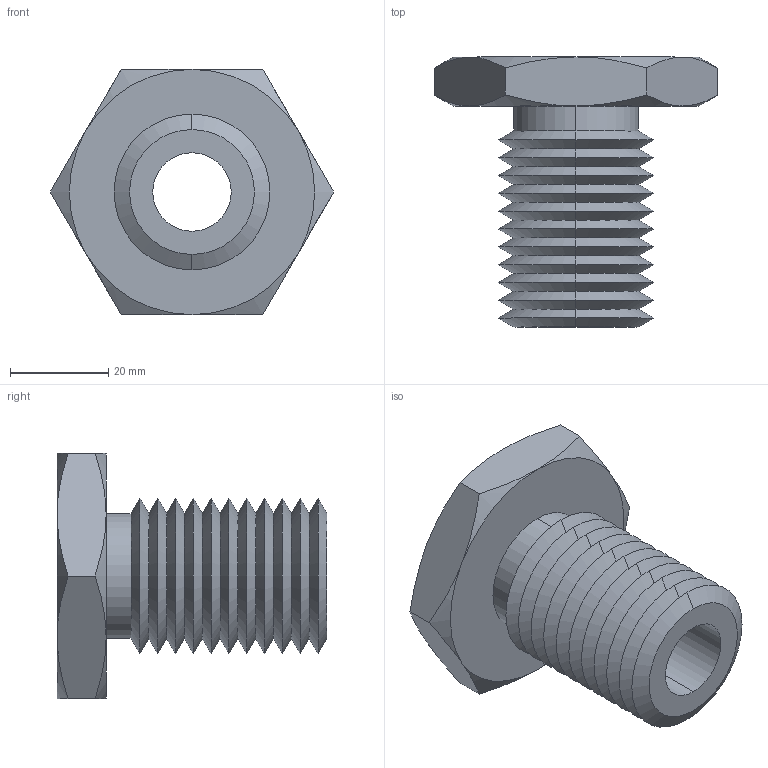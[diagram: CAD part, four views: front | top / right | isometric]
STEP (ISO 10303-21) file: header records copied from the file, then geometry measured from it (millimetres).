
FILE_DESCRIPTION (( 'STEP AP203' ), '1' );
FILE_NAME ('63302.W5125_M16x2.step', '2013-12-08T11:57:45', ( 'User' ), ( '' ), 'SwSTEP 2.0', 'SolidWorks 2009', '' );
FILE_SCHEMA (( 'CONFIG_CONTROL_DESIGN' ));
Length unit declared in the file: millimetre
Products named in the file (1): 63302.W5125_M16x2
Bounding box: 57.73 x 55 x 50 mm (x, y, z)
Volume: 38560.2 mm3; surface area: 15750.5 mm2
Topology: 1 solids, 1 shells, 71 faces, 146 edges, 78 vertices
Faces by surface type: cone 58, plane 9, cylinder 4
Entity records: 2039 total; most frequent: CARTESIAN_POINT 480, DIRECTION 332, ORIENTED_EDGE 292, EDGE_CURVE 146, AXIS2_PLACEMENT_3D 138, VERTEX_POINT 78, EDGE_LOOP 74, ADVANCED_FACE 71
